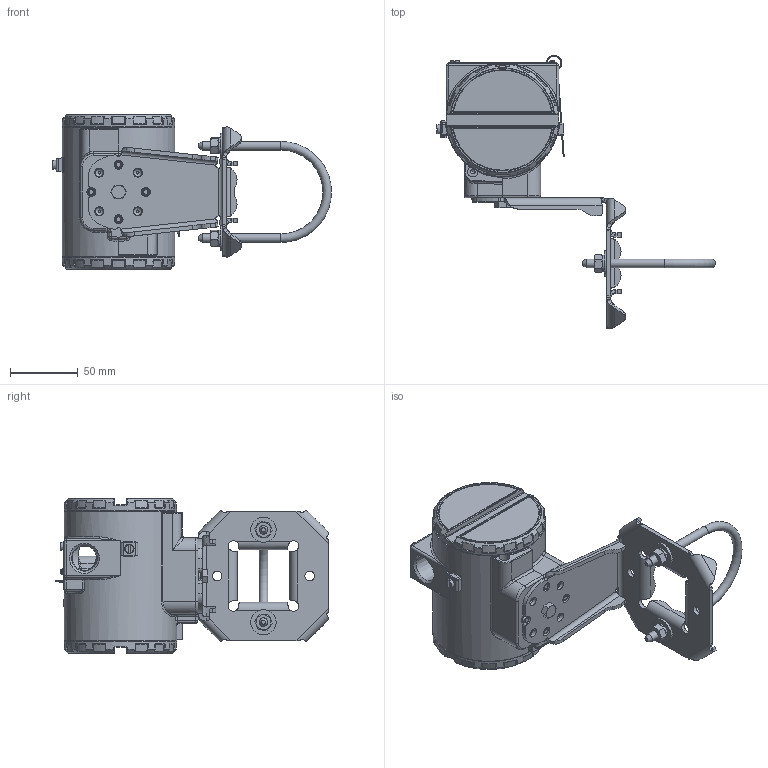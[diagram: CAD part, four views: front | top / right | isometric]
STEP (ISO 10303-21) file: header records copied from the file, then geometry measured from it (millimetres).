
FILE_DESCRIPTION(/* description */ (''),/* implementation_level */ '2;1');
FILE_NAME(/* name */ 'F:\Area\Desenvolvimento_2\Projects\Sensor\projetos\TT30X\TT30X com suporte.stp',/* time_stamp */ '2023-01-31T17:08:15-03:00',/* author */ ('inventor02'),/* organization */ (''),/* preprocessor_version */ 'ST-DEVELOPER v17',/* originating_system */ 'Autodesk Inventor 2019',/* authorisation */ '');
FILE_SCHEMA (('CONFIG_CONTROL_DESIGN'));
Products named in the file (27): tt30x vazio com suporte; carcaça com tampas; carcaça TT sem texto para 3d; Subconjunto tampa com visor aluminio; tampa pintada; VIDRO DO VISOR; oring 41x1 vidro tampa; Trava do vidro da tampa com visor; trava do vidro VH256; Subconjunto tampa sem visor-aluminio; tampa cega 300 pintada p0; 00034775-0; Subconjunto plaqueta 300; Plaqueta transmissor; Parafuso da Plaqueta; Rebite da Plaqueta; 096-A-0169-03; 101-A-0502-01; Chapa aterramento externo; ISO 1207 - M4 x 8; cj suporte TT; 101-C-3760-01; grampo U 1-4unc x 68; ANSI B18.2.3.5M - M6 x 1 x 10; Porca 1-4 x 20 UNC; DIN 127 - A 6; ANSI B18.22.1 - 1/4 - wide - Type A
Assembly tree (30 placements, depth 4):
  tt30x vazio com suporte
    carcaça com tampas
      carcaça TT sem texto para 3d
      Subconjunto tampa com visor aluminio
        tampa pintada
        VIDRO DO VISOR
        oring 41x1 vidro tampa
        Trava do vidro da tampa com visor
        trava do vidro VH256
        00034775-0
      Subconjunto tampa sem visor-aluminio
        tampa cega 300 pintada p0
        00034775-0
      Subconjunto plaqueta 300
        Plaqueta transmissor
        Parafuso da Plaqueta
        Rebite da Plaqueta
        096-A-0169-03
        101-A-0502-01
      Chapa aterramento externo
      ISO 1207 - M4 x 8
    cj suporte TT
      101-C-3760-01
      grampo U 1-4unc x 68
      ANSI B18.2.3.5M - M6 x 1 x 10
      Porca 1-4 x 20 UNC  x2
      DIN 127 - A 6  x2
      ANSI B18.22.1 - 1/4 - wide - Type A  x2
Bounding box: 205.25 x 200.92 x 114 mm (x, y, z)
Volume: 423555.1 mm3; surface area: 177593.7 mm2
Topology: 25 solids, 25 shells, 1914 faces, 4637 edges, 2756 vertices
Faces by surface type: bspline 574, cylinder 460, plane 380, torus 254, cone 155, sphere 91
Full cylindrical faces by diameter (mm): 2 x2, 2.1 x2, 2.459 x5, 2.642 x1, 2.7 x1, 3 x1, 3.242 x3, 3.571 x1, 4 x1, 4.3 x1, 4.4 x1, 4.978 x2, 6 x2, 6.2 x1, 6.35 x2, 6.6 x8, 6.647 x1, 7 x4, 7.087 x7, 7.6 x2, 7.925 x2, 18 x2, 18.644 x2, 42.6 x1, 45 x1, 65.6 x1, 65.8 x2, 68 x1, 72.5 x2, 74.5 x2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
Entity records: 78993 total; most frequent: CARTESIAN_POINT 36328, ORIENTED_EDGE 9056, DIRECTION 8339, EDGE_CURVE 4528, AXIS2_PLACEMENT_3D 3548, VERTEX_POINT 2718, CIRCLE 2070, EDGE_LOOP 1988
